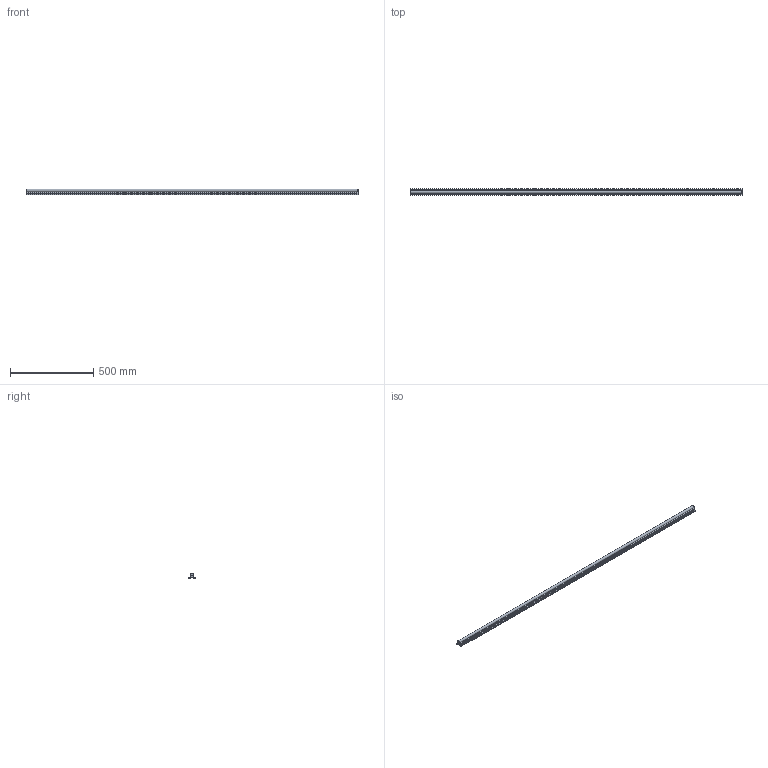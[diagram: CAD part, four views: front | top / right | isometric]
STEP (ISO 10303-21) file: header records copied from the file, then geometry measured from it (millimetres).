
FILE_DESCRIPTION(/* description */ (''),/* implementation_level */ '2;1');
FILE_NAME(/* name */ 'C:\Users\David\Desktop\stepFiles\Profilfuehrung\LFS16x2000.stp',/* time_stamp */ '2018-06-24T15:18:23+02:00',/* author */ ('Buskamp'),/* organization */ (''),/* preprocessor_version */ 'ST-DEVELOPER v17',/* originating_system */ 'Autodesk Inventor 2019',/* authorisation */ '');
FILE_SCHEMA (('AUTOMOTIVE_DESIGN { 1 0 10303 214 3 1 1 }'));
Length unit declared in the file: millimetre
Products named in the file (1): Linearführung D16xvariabel
Bounding box: 2000 x 40 x 32.97 mm (x, y, z)
Volume: 1021251.9 mm3; surface area: 313715.5 mm2
Topology: 1 solids, 1 shells, 156 faces, 542 edges, 360 vertices
Faces by surface type: plane 109, cylinder 29, cone 18
Full cylindrical faces by diameter (mm): 5.5 x28
Entity records: 6045 total; most frequent: CARTESIAN_POINT 1131, ORIENTED_EDGE 1084, DIRECTION 1036, EDGE_CURVE 542, AXIS2_PLACEMENT_3D 373, VERTEX_POINT 360, LINE 290, VECTOR 290
